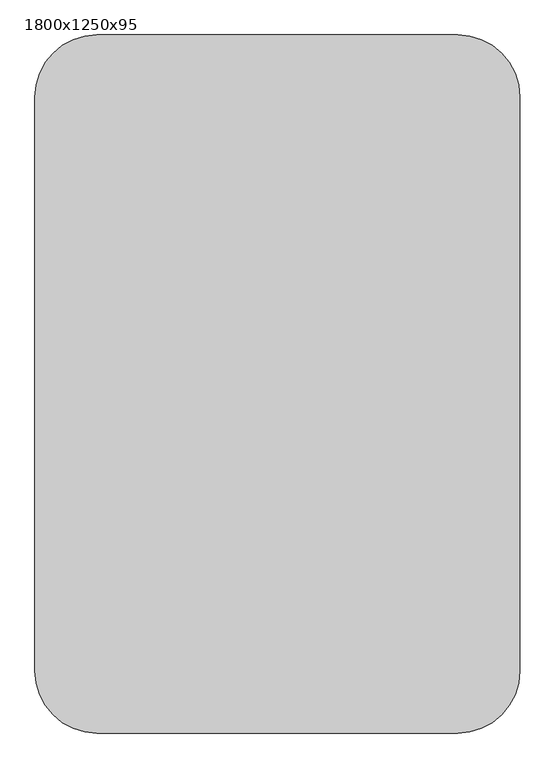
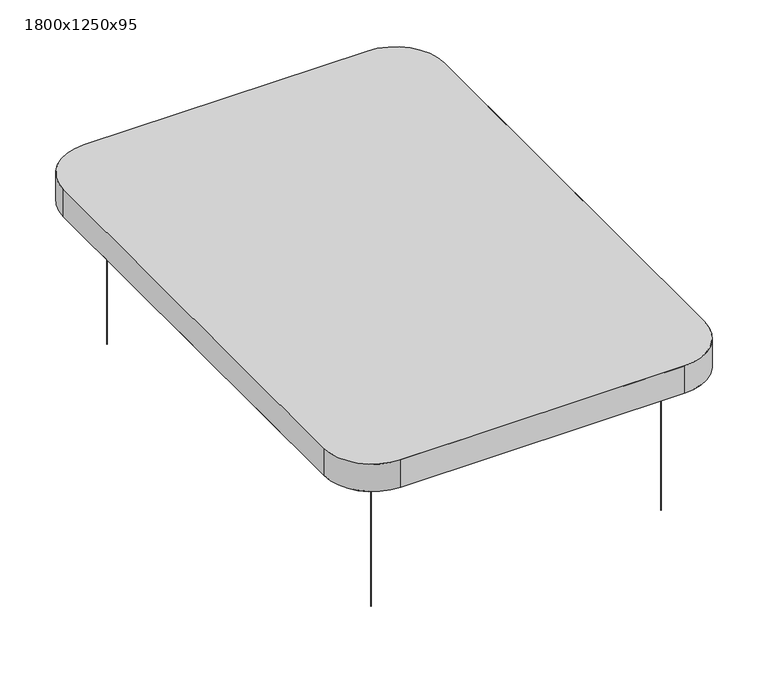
"""IFC4 building model written with IfcOpenShell, lengths in millimetres: proxy geometry, Texaa_Coussin_Abso_Rectangles_Suspendus_plafond : 1800x1250x95."""

from ifc_helpers import new_model, si_unit, point, frame, frame_2d, origin, origin_with_axes, place, context, project, spatial, polyline, circle_curve, trimmed, segment, composite_curve, outline, extrude, source, transform, mapped, element, save
from ifc_brep_helpers import plane_surface, cylinder_surface, revolved_surface, advanced_brep


def proxy_1800x1250x95_80d0d8ac(model_context):
    return source(origin(), model_context, "Body", "SolidModel", [
        extrude(outline(composite_curve([segment(trimmed(circle_curve(frame_2d((-475.0, -750.0)), 0.75), [point((-475.75, -750.0))], [point((-474.25, -750.0))], False, "CARTESIAN"), True, "CONTINUOUS"), segment(trimmed(circle_curve(frame_2d((-475.0, -750.0)), 0.75), [point((-474.25, -750.0))], [point((-475.75, -750.0))], False, "CARTESIAN"), True, "CONTINUOUS")], self_intersect=False)), origin_with_axes(), (0.0, 0.0, 1.0), 500.0),
        extrude(outline(composite_curve([segment(trimmed(circle_curve(frame_2d((475.0, -750.0)), 0.75), [point((474.25, -750.0))], [point((475.75, -750.0))], False, "CARTESIAN"), True, "CONTINUOUS"), segment(trimmed(circle_curve(frame_2d((475.0, -750.0)), 0.75), [point((475.75, -750.0))], [point((474.25, -750.0))], False, "CARTESIAN"), True, "CONTINUOUS")], self_intersect=False)), origin_with_axes(), (0.0, 0.0, 1.0), 500.0),
        extrude(outline(composite_curve([segment(trimmed(circle_curve(frame_2d((475.0, 750.0)), 0.75), [point((474.25, 750.0))], [point((475.75, 750.0))], False, "CARTESIAN"), True, "CONTINUOUS"), segment(trimmed(circle_curve(frame_2d((475.0, 750.0)), 0.75), [point((475.75, 750.0))], [point((474.25, 750.0))], False, "CARTESIAN"), True, "CONTINUOUS")], self_intersect=False)), origin_with_axes(), (0.0, 0.0, 1.0), 500.0),
        extrude(outline(composite_curve([segment(trimmed(circle_curve(frame_2d((-475.0, 750.0)), 0.75), [point((-475.75, 750.0))], [point((-474.25, 750.0))], False, "CARTESIAN"), True, "CONTINUOUS"), segment(trimmed(circle_curve(frame_2d((-475.0, 750.0)), 0.75), [point((-474.25, 750.0))], [point((-475.75, 750.0))], False, "CARTESIAN"), True, "CONTINUOUS")], self_intersect=False)), origin_with_axes(), (0.0, 0.0, 1.0), 500.0),
        extrude(outline(composite_curve([segment(polyline([(-624.0, -740.0), (-624.0, 740.0)]), True, "CONTINUOUS"), segment(trimmed(circle_curve(frame_2d((-465.0, 740.0)), 159.0), [point((-624.0, 740.0))], [point((-465.0, 899.0))], False, "CARTESIAN"), True, "CONTINUOUS"), segment(polyline([(-465.0, 899.0), (465.0, 899.0)]), True, "CONTINUOUS"), segment(trimmed(circle_curve(frame_2d((465.0, 740.0)), 159.0), [point((465.0, 899.0))], [point((624.0, 740.0))], False, "CARTESIAN"), True, "CONTINUOUS"), segment(polyline([(624.0, 740.0), (624.0, -740.0)]), True, "CONTINUOUS"), segment(trimmed(circle_curve(frame_2d((465.0, -740.0)), 159.0), [point((624.0, -740.0))], [point((465.0, -899.0))], False, "CARTESIAN"), True, "CONTINUOUS"), segment(polyline([(465.0, -899.0), (-465.0, -899.0)]), True, "CONTINUOUS"), segment(trimmed(circle_curve(frame_2d((-465.0, -740.0)), 159.0), [point((-465.0, -899.0))], [point((-624.0, -740.0))], False, "CARTESIAN"), True, "CONTINUOUS")], self_intersect=False)), frame((0.0, 0.0, 501.0), z_axis=(0.0, 0.0, 1.0), x_axis=(1.0, 0.0, 0.0)), (0.0, 0.0, 1.0), 93.0),
        advanced_brep(
        [(-625.0, -740.0, 595.0), (-465.0, -900.0, 595.0), (465.0, -900.0, 595.0), (625.0, -740.0, 595.0), (625.0, 740.0, 595.0), (465.0, 900.0, 595.0), (-465.0, 900.0, 595.0), (-625.0, 740.0, 595.0), (-625.0, -740.0, 500.0), (-625.0, 740.0, 500.0), (-465.0, 900.0, 500.0), (465.0, 900.0, 500.0), (625.0, 740.0, 500.0), (625.0, -740.0, 500.0), (465.0, -900.0, 500.0), (-465.0, -900.0, 500.0), (-475.0, 850.0, 500.0), (-575.0, 750.0, 500.0), (-575.0, -750.0, 500.0), (-475.0, -850.0, 500.0), (475.0, -850.0, 500.0), (575.0, -750.0, 500.0), (575.0, 750.0, 500.0), (475.0, 850.0, 500.0), (475.0, 850.0, 501.0), (-475.0, 850.0, 501.0), (575.0, -750.0, 501.0), (575.0, 750.0, 501.0), (-475.0, -850.0, 501.0), (475.0, -850.0, 501.0), (-575.0, 750.0, 501.0), (-575.0, -750.0, 501.0), (-624.0, -740.0, 594.0), (-624.0, 740.0, 594.0), (-465.0, 899.0, 594.0), (465.0, 899.0, 594.0), (624.0, 740.0, 594.0), (624.0, -740.0, 594.0), (465.0, -899.0, 594.0), (-465.0, -899.0, 594.0), (-624.0, -740.0, 501.0), (-465.0, -899.0, 501.0), (465.0, -899.0, 501.0), (624.0, -740.0, 501.0), (624.0, 740.0, 501.0), (465.0, 899.0, 501.0), (-465.0, 899.0, 501.0), (-624.0, 740.0, 501.0)],
        [
            (0, 1, circle_curve(frame((-465.0, -740.0, 595.0), z_axis=(0.0, 0.0, 1.0), x_axis=(1.0, 0.0, 0.0)), 160.0)),
            (1, 2),
            (2, 3, circle_curve(frame((465.0, -740.0, 595.0), z_axis=(0.0, 0.0, 1.0), x_axis=(1.0, 0.0, 0.0)), 160.0)),
            (3, 4),
            (4, 5, circle_curve(frame((465.0, 740.0, 595.0), z_axis=(0.0, 0.0, 1.0), x_axis=(1.0, 0.0, 0.0)), 160.0)),
            (5, 6),
            (6, 7, circle_curve(frame((-465.0, 740.0, 595.0), z_axis=(0.0, 0.0, 1.0), x_axis=(1.0, 0.0, 0.0)), 160.0)),
            (7, 0),
            (8, 9),
            (9, 10, circle_curve(frame((-465.0, 740.0, 500.0), z_axis=(0.0, 0.0, -1.0), x_axis=(1.0, 0.0, 0.0)), 160.0)),
            (10, 11),
            (11, 12, circle_curve(frame((465.0, 740.0, 500.0), z_axis=(0.0, 0.0, -1.0), x_axis=(1.0, 0.0, 0.0)), 160.0)),
            (12, 13),
            (13, 14, circle_curve(frame((465.0, -740.0, 500.0), z_axis=(0.0, 0.0, -1.0), x_axis=(1.0, 0.0, 0.0)), 160.0)),
            (14, 15),
            (15, 8, circle_curve(frame((-465.0, -740.0, 500.0), z_axis=(0.0, 0.0, -1.0), x_axis=(1.0, 0.0, 0.0)), 160.0)),
            (16, 17),
            (17, 18),
            (18, 19),
            (19, 20),
            (20, 21),
            (21, 22),
            (22, 23),
            (23, 16),
            (7, 9),
            (8, 0),
            (5, 11),
            (10, 6),
            (3, 13),
            (12, 4),
            (1, 15),
            (14, 2),
            (23, 24),
            (24, 25),
            (25, 16),
            (21, 26),
            (26, 27),
            (27, 22),
            (19, 28),
            (28, 29),
            (29, 20),
            (17, 30),
            (30, 31),
            (31, 18),
            (32, 33),
            (33, 34, circle_curve(frame((-465.0, 740.0, 594.0), z_axis=(0.0, 0.0, -1.0), x_axis=(1.0, 0.0, 0.0)), 159.0)),
            (34, 35),
            (35, 36, circle_curve(frame((465.0, 740.0, 594.0), z_axis=(0.0, 0.0, -1.0), x_axis=(1.0, 0.0, 0.0)), 159.0)),
            (36, 37),
            (37, 38, circle_curve(frame((465.0, -740.0, 594.0), z_axis=(0.0, 0.0, -1.0), x_axis=(1.0, 0.0, 0.0)), 159.0)),
            (38, 39),
            (39, 32, circle_curve(frame((-465.0, -740.0, 594.0), z_axis=(0.0, 0.0, -1.0), x_axis=(1.0, 0.0, 0.0)), 159.0)),
            (40, 41, circle_curve(frame((-465.0, -740.0, 501.0), z_axis=(0.0, 0.0, 1.0), x_axis=(1.0, 0.0, 0.0)), 159.0)),
            (41, 42),
            (42, 43, circle_curve(frame((465.0, -740.0, 501.0), z_axis=(0.0, 0.0, 1.0), x_axis=(1.0, 0.0, 0.0)), 159.0)),
            (43, 44),
            (44, 45, circle_curve(frame((465.0, 740.0, 501.0), z_axis=(0.0, 0.0, 1.0), x_axis=(1.0, 0.0, 0.0)), 159.0)),
            (45, 46),
            (46, 47, circle_curve(frame((-465.0, 740.0, 501.0), z_axis=(0.0, 0.0, 1.0), x_axis=(1.0, 0.0, 0.0)), 159.0)),
            (47, 40),
            (24, 27),
            (26, 29),
            (28, 31),
            (30, 25),
            (32, 40),
            (47, 33),
            (34, 46),
            (45, 35),
            (36, 44),
            (43, 37),
            (38, 42),
            (41, 39),
        ],
        [
            plane_surface(frame((-625.0, 740.0, 595.0), z_axis=(0.0, 0.0, 1.0), x_axis=(0.0, 1.0, 0.0))),
            plane_surface(frame((-625.0, 740.0, 500.0), z_axis=(0.0, 0.0, -1.0), x_axis=(0.0, -1.0, 0.0))),
            plane_surface(frame((-625.0, -740.0, 595.0), z_axis=(-1.0, 0.0, 0.0), x_axis=(0.0, 0.0, -1.0))),
            plane_surface(frame((-465.0, 900.0, 595.0), z_axis=(0.0, 1.0, 0.0), x_axis=(0.0, 0.0, -1.0))),
            plane_surface(frame((625.0, 740.0, 595.0), z_axis=(1.0, 0.0, 0.0), x_axis=(0.0, 0.0, -1.0))),
            plane_surface(frame((465.0, -900.0, 595.0), z_axis=(0.0, -1.0, 0.0), x_axis=(0.0, 0.0, -1.0))),
            plane_surface(frame((-475.0, 850.0, 501.0), z_axis=(0.0, -1.0, 0.0), x_axis=(0.0, 0.0, -1.0))),
            plane_surface(frame((575.0, 750.0, 501.0), z_axis=(-1.0, 0.0, 0.0), x_axis=(0.0, 0.0, -1.0))),
            plane_surface(frame((475.0, -850.0, 501.0), z_axis=(0.0, 1.0, 0.0), x_axis=(0.0, 0.0, -1.0))),
            plane_surface(frame((-575.0, -750.0, 501.0), z_axis=(1.0, 0.0, 0.0), x_axis=(0.0, 0.0, -1.0))),
            plane_surface(frame((-624.0, 740.0, 594.0), z_axis=(0.0, 0.0, -1.0), x_axis=(0.0, 1.0, 0.0))),
            plane_surface(frame((-624.0, 740.0, 501.0), z_axis=(0.0, 0.0, 1.0), x_axis=(0.0, -1.0, 0.0))),
            plane_surface(frame((-624.0, -740.0, 594.0), z_axis=(1.0, 0.0, 0.0), x_axis=(0.0, 0.0, -1.0))),
            plane_surface(frame((-465.0, 899.0, 594.0), z_axis=(0.0, -1.0, 0.0), x_axis=(0.0, 0.0, -1.0))),
            plane_surface(frame((624.0, 740.0, 594.0), z_axis=(-1.0, 0.0, 0.0), x_axis=(0.0, 0.0, -1.0))),
            plane_surface(frame((465.0, -899.0, 594.0), z_axis=(0.0, 1.0, 0.0), x_axis=(0.0, 0.0, -1.0))),
            cylinder_surface(frame((-465.0, 740.0, 500.0), z_axis=(0.0, 0.0, 1.0), x_axis=(1.0, 0.0, 0.0)), 160.0),
            cylinder_surface(frame((465.0, 740.0, 500.0), z_axis=(0.0, 0.0, 1.0), x_axis=(1.0, 0.0, 0.0)), 160.0),
            cylinder_surface(frame((465.0, -740.0, 500.0), z_axis=(0.0, 0.0, 1.0), x_axis=(1.0, 0.0, 0.0)), 160.0),
            cylinder_surface(frame((-465.0, -740.0, 500.0), z_axis=(0.0, 0.0, 1.0), x_axis=(1.0, 0.0, 0.0)), 160.0),
            revolved_surface(polyline([(-306.0, 740.0, 594.0), (-306.0, 740.0, 501.0)]), (-465.0, 740.0, 501.0), (0.0, 0.0, 1.0)),
            revolved_surface(polyline([(624.0, 740.0, 594.0), (624.0, 740.0, 501.0)]), (465.0, 740.0, 501.0), (0.0, 0.0, 1.0)),
            revolved_surface(polyline([(624.0, -740.0, 594.0), (624.0, -740.0, 501.0)]), (465.0, -740.0, 501.0), (0.0, 0.0, 1.0)),
            revolved_surface(polyline([(-306.0, -740.0, 594.0), (-306.0, -740.0, 501.0)]), (-465.0, -740.0, 501.0), (0.0, 0.0, 1.0)),
            plane_surface(frame((-575.0, 750.0, 501.0), z_axis=(0.707106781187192, -0.7071067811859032, 0.0), x_axis=(0.0, 0.0, -1.0))),
            plane_surface(frame((475.0, 850.0, 501.0), z_axis=(-0.7071067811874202, -0.7071067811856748, 0.0), x_axis=(0.0, 0.0, -1.0))),
            plane_surface(frame((575.0, -750.0, 501.0), z_axis=(-0.7071067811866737, 0.7071067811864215, 0.0), x_axis=(0.0, 0.0, -1.0))),
            plane_surface(frame((-475.0, -850.0, 501.0), z_axis=(0.7071067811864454, 0.7071067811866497, 0.0), x_axis=(0.0, 0.0, -1.0))),
        ],
        [
            (0, [[1, 2, 3, 4, 5, 6, 7, 8]]),
            (1, [[9, 10, 11, 12, 13, 14, 15, 16], [17, 18, 19, 20, 21, 22, 23, 24]]),
            (2, [[25, -9, 26, -8]]),
            (3, [[27, -11, 28, -6]]),
            (4, [[29, -13, 30, -4]]),
            (5, [[31, -15, 32, -2]]),
            (6, [[-24, 33, 34, 35]]),
            (7, [[-22, 36, 37, 38]]),
            (8, [[-20, 39, 40, 41]]),
            (9, [[-18, 42, 43, 44]]),
            (10, [[45, 46, 47, 48, 49, 50, 51, 52]]),
            (11, [[53, 54, 55, 56, 57, 58, 59, 60], [61, -37, 62, -40, 63, -43, 64, -34]]),
            (12, [[65, -60, 66, -45]]),
            (13, [[67, -58, 68, -47]]),
            (14, [[69, -56, 70, -49]]),
            (15, [[71, -54, 72, -51]]),
            (16, [[-28, -10, -25, -7]]),
            (17, [[-30, -12, -27, -5]]),
            (18, [[-32, -14, -29, -3]]),
            (19, [[-26, -16, -31, -1]]),
            (20, [[-66, -59, -67, -46]]),
            (21, [[-68, -57, -69, -48]]),
            (22, [[-70, -55, -71, -50]]),
            (23, [[-72, -53, -65, -52]]),
            (24, [[-64, -42, -17, -35]]),
            (25, [[-61, -33, -23, -38]]),
            (26, [[-62, -36, -21, -41]]),
            (27, [[-63, -39, -19, -44]]),
        ],
    ),
    ])


if __name__ == "__main__":
    model = new_model("IFC4")
    model_context = context("Model", 3, world=origin())
    ifc_project = project(units=[si_unit("LENGTHUNIT", "METRE", prefix="MILLI")], contexts=[model_context])
    site = spatial("IfcSite", under=ifc_project)
    building = spatial("IfcBuilding", under=site)
    placement = place(None, origin())
    proxy_1800x1250x95_shape = proxy_1800x1250x95_80d0d8ac(model_context)
    element("IfcBuildingElementProxy", 1, Name="Texaa_Coussin_Abso_Rectangles_Suspendus_plafond : 1800x1250x95", ObjectType="Texaa_Coussin_Abso_Rectangles_Suspendus_plafond : 1800x1250x95", at=placement, inside=building, context=model_context, shape_type="MappedRepresentation", body=[
        mapped(proxy_1800x1250x95_shape, transform((0.0, 0.0, 0.0), x_axis=(1.0, 0.0, 0.0), y_axis=(0.0, 1.0, 0.0), z_axis=(0.0, 0.0, 1.0))),
    ])
    save(model, "model.ifc")
